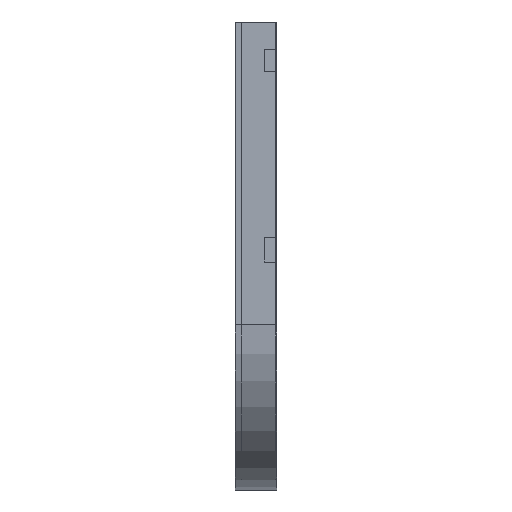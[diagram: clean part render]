
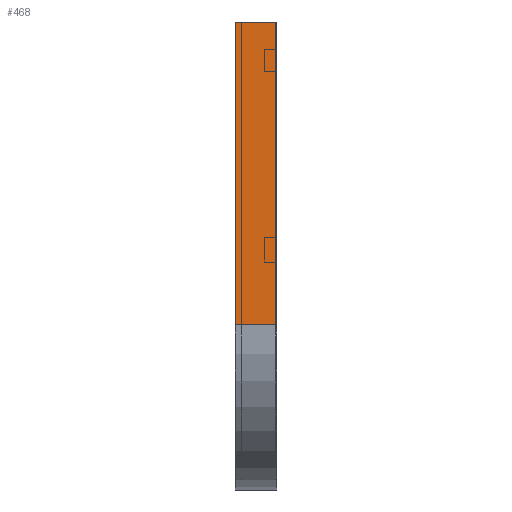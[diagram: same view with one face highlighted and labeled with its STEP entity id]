
A CAD part, left-side view. The second image highlights one B-rep face of the part: STEP entity #468.
In plain terms, the highlighted planar face has unit normal (-1, 0, 0).
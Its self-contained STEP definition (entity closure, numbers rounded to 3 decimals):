
#26 = VERTEX_POINT ( 'NONE', #1468 ) ;
#161 = CARTESIAN_POINT ( 'NONE',  ( 0., 0., -550. ) ) ;
#216 = CARTESIAN_POINT ( 'NONE',  ( 0., 0., 0. ) ) ;
#336 = DIRECTION ( 'NONE',  ( 1., 0., 0. ) ) ;
#367 = VERTEX_POINT ( 'NONE', #1912 ) ;
#468 = ADVANCED_FACE ( 'NONE', ( #992 ), #1762, .F. ) ;
#489 = VECTOR ( 'NONE', #990, 1000. ) ;
#505 = CARTESIAN_POINT ( 'NONE',  ( 0., 75., 0. ) ) ;
#519 = ORIENTED_EDGE ( 'NONE', *, *, #1466, .T. ) ;
#619 = DIRECTION ( 'NONE',  ( 0., -1., 0. ) ) ;
#665 = CARTESIAN_POINT ( 'NONE',  ( 0., 0., 0. ) ) ;
#672 = DIRECTION ( 'NONE',  ( 0., 0., -1. ) ) ;
#683 = VERTEX_POINT ( 'NONE', #1570 ) ;
#817 = LINE ( 'NONE', #827, #1020 ) ;
#827 = CARTESIAN_POINT ( 'NONE',  ( 0., 0., 0. ) ) ;
#990 = DIRECTION ( 'NONE',  ( 0., -1., 0. ) ) ;
#992 = FACE_OUTER_BOUND ( 'NONE', #1138, .T. ) ;
#1020 = VECTOR ( 'NONE', #672, 1000. ) ;
#1054 = EDGE_CURVE ( 'NONE', #683, #1454, #1413, .T. ) ;
#1075 = CARTESIAN_POINT ( 'NONE',  ( 0., 0., 0. ) ) ;
#1138 = EDGE_LOOP ( 'NONE', ( #1189, #1191, #519, #1764 ) ) ;
#1189 = ORIENTED_EDGE ( 'NONE', *, *, #1810, .F. ) ;
#1191 = ORIENTED_EDGE ( 'NONE', *, *, #1054, .F. ) ;
#1327 = VECTOR ( 'NONE', #619, 1000. ) ;
#1413 = LINE ( 'NONE', #1075, #1327 ) ;
#1454 = VERTEX_POINT ( 'NONE', #665 ) ;
#1462 = LINE ( 'NONE', #505, #1793 ) ;
#1466 = EDGE_CURVE ( 'NONE', #683, #367, #1462, .T. ) ;
#1468 = CARTESIAN_POINT ( 'NONE',  ( 0., 0., -550. ) ) ;
#1498 = DIRECTION ( 'NONE',  ( 0., 0., -1. ) ) ;
#1550 = AXIS2_PLACEMENT_3D ( 'NONE', #216, #336, #1498 ) ;
#1570 = CARTESIAN_POINT ( 'NONE',  ( 0., 75., 0. ) ) ;
#1748 = LINE ( 'NONE', #161, #489 ) ;
#1762 = PLANE ( 'NONE',  #1550 ) ;
#1764 = ORIENTED_EDGE ( 'NONE', *, *, #1785, .T. ) ;
#1785 = EDGE_CURVE ( 'NONE', #367, #26, #1748, .T. ) ;
#1793 = VECTOR ( 'NONE', #1910, 1000. ) ;
#1810 = EDGE_CURVE ( 'NONE', #1454, #26, #817, .T. ) ;
#1910 = DIRECTION ( 'NONE',  ( 0., 0., -1. ) ) ;
#1912 = CARTESIAN_POINT ( 'NONE',  ( 0., 75., -550. ) ) ;
